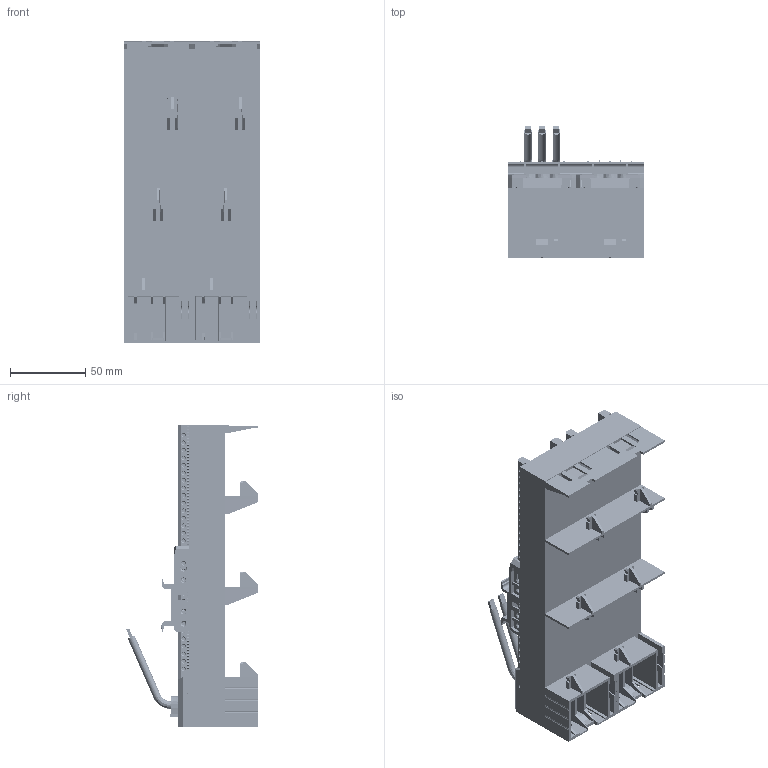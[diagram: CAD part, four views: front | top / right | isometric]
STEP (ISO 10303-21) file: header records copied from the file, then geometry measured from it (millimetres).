
FILE_DESCRIPTION (( 'STEP AP203' ), '1' );
FILE_NAME ('55324.STEP', '2021-08-17T00:53:59', ( '' ), ( '' ), 'SwSTEP 2.0', 'SolidWorks 2017', '' );
FILE_SCHEMA (( 'CONFIG_CONTROL_DESIGN' ));
Products named in the file (2): 55324
Bounding box: 90 x 87.2 x 200.7 mm (x, y, z)
Volume: 525207.2 mm3; surface area: 149586.6 mm2
Topology: 7 solids, 23 shells, 3608 faces, 10347 edges, 7044 vertices
Faces by surface type: plane 2193, cylinder 1068, cone 312, bspline 35
Full cylindrical faces by diameter (mm): 1.988 x260, 2.779 x8, 2.882 x12, 2.982 x260, 4.864 x8, 5 x6, 5.169 x4
Entity records: 162794 total; most frequent: CARTESIAN_POINT 79723, ORIENTED_EDGE 17964, DIRECTION 14018, EDGE_CURVE 8982, VERTEX_POINT 6512, VECTOR 5072, LINE 5072, EDGE_LOOP 4856
